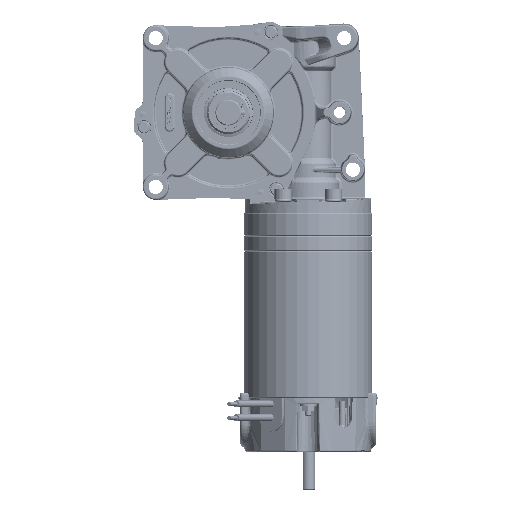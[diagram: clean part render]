
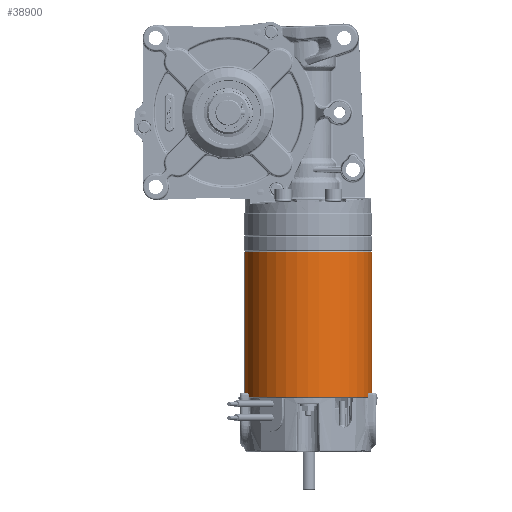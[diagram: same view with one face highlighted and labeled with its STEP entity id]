
A CAD part, left-side view. The second image highlights one B-rep face of the part: STEP entity #38900.
In plain terms, the highlighted cylindrical face has radius 37 mm (diameter 74 mm), a partial arc.
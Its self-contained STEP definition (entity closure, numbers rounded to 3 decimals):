
#6402 = CARTESIAN_POINT ( 'NONE',  ( -133.23, -23.847, 19.184 ) ) ;
#9200 = EDGE_CURVE ( 'NONE', #77179, #30645, #72391, .T. ) ;
#11239 = VERTEX_POINT ( 'NONE', #82834 ) ;
#22917 = EDGE_CURVE ( 'NONE', #11239, #30645, #70557, .T. ) ;
#25122 = DIRECTION ( 'NONE',  ( 0., 0., -1. ) ) ;
#30501 = EDGE_CURVE ( 'NONE', #77179, #141849, #79007, .T. ) ;
#30645 = VERTEX_POINT ( 'NONE', #88361 ) ;
#32174 = CARTESIAN_POINT ( 'NONE',  ( -133.23, -23.847, 19.684 ) ) ;
#38900 = ADVANCED_FACE ( 'NONE', ( #179541 ), #155743, .T. ) ;
#44771 = DIRECTION ( 'NONE',  ( 0., 0., -1. ) ) ;
#51679 = DIRECTION ( 'NONE',  ( 0., 0., -1. ) ) ;
#52121 = ORIENTED_EDGE ( 'NONE', *, *, #22917, .T. ) ;
#64474 = LINE ( 'NONE', #32174, #85450 ) ;
#70557 = CIRCLE ( 'NONE', #180845, 37. ) ;
#72391 = LINE ( 'NONE', #176045, #79124 ) ;
#76844 = CARTESIAN_POINT ( 'NONE',  ( -126.805, -60.285, -64.816 ) ) ;
#77179 = VERTEX_POINT ( 'NONE', #177706 ) ;
#79007 = CIRCLE ( 'NONE', #207743, 37. ) ;
#79124 = VECTOR ( 'NONE', #51679, 1000. ) ;
#80430 = CARTESIAN_POINT ( 'NONE',  ( -126.805, -60.285, 19.684 ) ) ;
#82834 = CARTESIAN_POINT ( 'NONE',  ( -133.23, -23.847, -64.816 ) ) ;
#85450 = VECTOR ( 'NONE', #102567, 1000. ) ;
#88361 = CARTESIAN_POINT ( 'NONE',  ( -120.38, -96.723, -64.816 ) ) ;
#96666 = CARTESIAN_POINT ( 'NONE',  ( -126.805, -60.285, 19.184 ) ) ;
#97590 = DIRECTION ( 'NONE',  ( 0.174, -0.985, 0. ) ) ;
#102567 = DIRECTION ( 'NONE',  ( 0., 0., -1. ) ) ;
#114928 = DIRECTION ( 'NONE',  ( 0., 0., 1. ) ) ;
#115112 = DIRECTION ( 'NONE',  ( 0.174, -0.985, 0. ) ) ;
#128457 = EDGE_CURVE ( 'NONE', #141849, #11239, #64474, .T. ) ;
#136132 = ORIENTED_EDGE ( 'NONE', *, *, #128457, .T. ) ;
#141849 = VERTEX_POINT ( 'NONE', #6402 ) ;
#155743 = CYLINDRICAL_SURFACE ( 'NONE', #196943, 37. ) ;
#158135 = ORIENTED_EDGE ( 'NONE', *, *, #30501, .T. ) ;
#163449 = DIRECTION ( 'NONE',  ( 0.174, -0.985, 0. ) ) ;
#176045 = CARTESIAN_POINT ( 'NONE',  ( -120.38, -96.723, 19.684 ) ) ;
#177706 = CARTESIAN_POINT ( 'NONE',  ( -120.38, -96.723, 19.184 ) ) ;
#179541 = FACE_OUTER_BOUND ( 'NONE', #206861, .T. ) ;
#180165 = ORIENTED_EDGE ( 'NONE', *, *, #9200, .F. ) ;
#180845 = AXIS2_PLACEMENT_3D ( 'NONE', #76844, #114928, #97590 ) ;
#196943 = AXIS2_PLACEMENT_3D ( 'NONE', #80430, #25122, #115112 ) ;
#206861 = EDGE_LOOP ( 'NONE', ( #158135, #136132, #52121, #180165 ) ) ;
#207743 = AXIS2_PLACEMENT_3D ( 'NONE', #96666, #44771, #163449 ) ;
